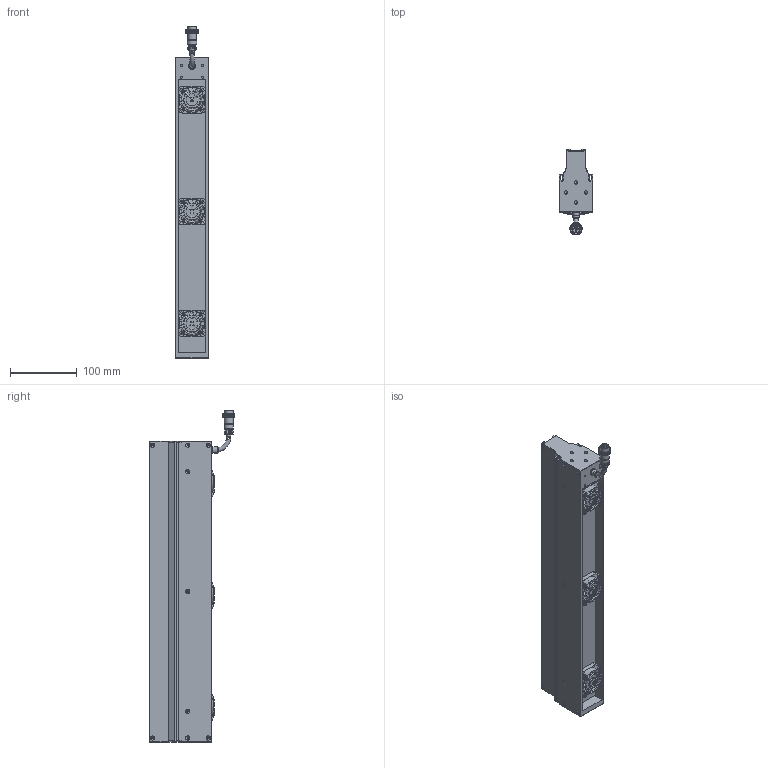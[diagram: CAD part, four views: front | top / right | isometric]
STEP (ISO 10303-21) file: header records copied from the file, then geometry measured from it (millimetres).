
FILE_DESCRIPTION (( 'STEP AP203' ), '1' );
FILE_NAME ('OPT-LSS452-R-V3.1U尨砩芞.STEP', '2025-01-21T02:53:56', ( 'USER' ), ( '' ), 'SwSTEP 2.0', 'SolidWorks 2016', '' );
FILE_SCHEMA (( 'CONFIG_CONTROL_DESIGN' ));
Length unit declared in the file: millimetre
Products named in the file (2): OPT-LSS452-R-V3.1U尨砩芞
Bounding box: 50 x 128.85 x 498.78 mm (x, y, z)
Volume: 1509335.7 mm3; surface area: 248229.7 mm2
Topology: 18 solids, 28 shells, 3947 faces, 8743 edges, 4934 vertices
Faces by surface type: bspline 2140, cylinder 834, plane 747, torus 173, cone 53
Full cylindrical faces by diameter (mm): 0.95 x6, 1.1 x2, 1.4 x2, 1.6 x12, 2 x7, 2.5 x18, 3.2 x16, 3.4 x18, 3.5 x6, 5 x8, 6.2 x12, 6.4 x3, 7.5 x1, 8.6 x1, 9.3 x1, 9.8 x1, 10 x1, 13.2 x1, 14 x1, 16.1 x1, 24.8 x3, 38 x3
Entity records: 132498 total; most frequent: CARTESIAN_POINT 65741, ORIENTED_EDGE 16836, EDGE_CURVE 8418, DIRECTION 7174, B_SPLINE_CURVE_WITH_KNOTS 5729, VERTEX_POINT 4860, EDGE_LOOP 4314, FACE_OUTER_BOUND 4133
